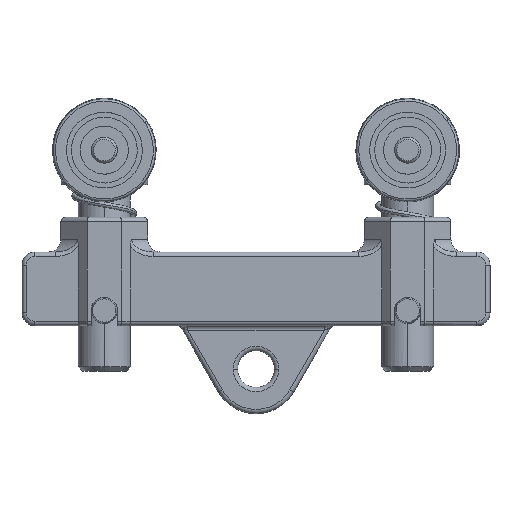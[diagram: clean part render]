
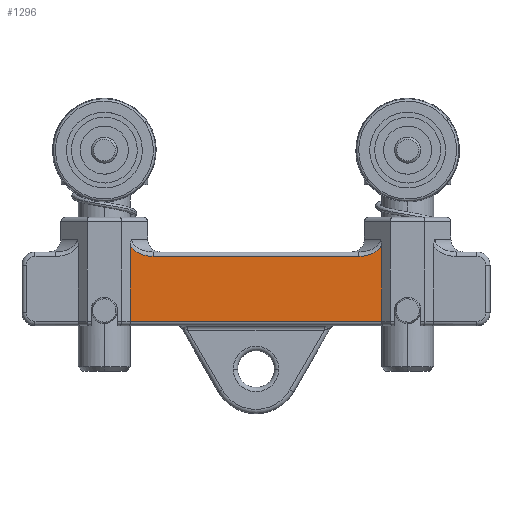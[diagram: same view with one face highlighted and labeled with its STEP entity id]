
A CAD part, top view. The second image highlights one B-rep face of the part: STEP entity #1296.
In plain terms, the highlighted planar face has unit normal (0, 0, 1).
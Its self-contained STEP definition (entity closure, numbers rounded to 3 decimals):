
#1239 = VERTEX_POINT ( 'NONE', #5664 ) ;
#1250 = EDGE_LOOP ( 'NONE', ( #1301, #1325, #1297, #1335, #1291, #1278 ) ) ;
#1275 = EDGE_CURVE ( 'NONE', #1282, #1293, #5746, .T. ) ;
#1278 = ORIENTED_EDGE ( 'NONE', *, *, #1275, .T. ) ;
#1282 = VERTEX_POINT ( 'NONE', #5726 ) ;
#1289 = EDGE_CURVE ( 'NONE', #1299, #1327, #5748, .T. ) ;
#1291 = ORIENTED_EDGE ( 'NONE', *, *, #1337, .T. ) ;
#1293 = VERTEX_POINT ( 'NONE', #5779 ) ;
#1294 = VERTEX_POINT ( 'NONE', #5782 ) ;
#1296 = ADVANCED_FACE ( 'NONE', ( #5781 ), #5777, .F. ) ;
#1297 = ORIENTED_EDGE ( 'NONE', *, *, #1326, .T. ) ;
#1299 = VERTEX_POINT ( 'NONE', #5778 ) ;
#1301 = ORIENTED_EDGE ( 'NONE', *, *, #1304, .T. ) ;
#1302 = EDGE_CURVE ( 'NONE', #1294, #1239, #5768, .T. ) ;
#1304 = EDGE_CURVE ( 'NONE', #1293, #1294, #5818, .T. ) ;
#1325 = ORIENTED_EDGE ( 'NONE', *, *, #1302, .T. ) ;
#1326 = EDGE_CURVE ( 'NONE', #1239, #1299, #5839, .T. ) ;
#1327 = VERTEX_POINT ( 'NONE', #5834 ) ;
#1335 = ORIENTED_EDGE ( 'NONE', *, *, #1289, .T. ) ;
#1337 = EDGE_CURVE ( 'NONE', #1327, #1282, #5827, .T. ) ;
#5030 = CARTESIAN_POINT ( 'NONE',  ( 25.893, 16.939, -2. ) ) ;
#5031 = CARTESIAN_POINT ( 'NONE',  ( 27.865, 16., -2. ) ) ;
#5034 = CARTESIAN_POINT ( 'NONE',  ( 30.243, 16., -2. ) ) ;
#5664 = CARTESIAN_POINT ( 'NONE',  ( 77.757, 16., -2. ) ) ;
#5726 = CARTESIAN_POINT ( 'NONE',  ( 25., 1., -2. ) ) ;
#5732 = CARTESIAN_POINT ( 'NONE',  ( 83., 1., -2. ) ) ;
#5744 = DIRECTION ( 'NONE',  ( 1., 0., 0. ) ) ;
#5745 = VECTOR ( 'NONE', #5744, 1000. ) ;
#5746 = LINE ( 'NONE', #5732, #5745 ) ;
#5748 =( BOUNDED_CURVE ( )  B_SPLINE_CURVE ( 3, ( #5034, #5031, #5030, #12536 ),
 .UNSPECIFIED., .F., .F. ) 
 B_SPLINE_CURVE_WITH_KNOTS ( ( 4, 4 ),
 ( 4.712, 5.898 ),
 .UNSPECIFIED. ) 
 CURVE ( )  GEOMETRIC_REPRESENTATION_ITEM ( )  RATIONAL_B_SPLINE_CURVE ( ( 1., 0.886, 0.886, 1. ) ) 
 REPRESENTATION_ITEM ( '' )  );
#5764 = CARTESIAN_POINT ( 'NONE',  ( 77.757, 16., -2. ) ) ;
#5765 = CARTESIAN_POINT ( 'NONE',  ( 80.135, 16., -2. ) ) ;
#5766 = CARTESIAN_POINT ( 'NONE',  ( 82.107, 16.939, -2. ) ) ;
#5767 = CARTESIAN_POINT ( 'NONE',  ( 83., 18.498, -2. ) ) ;
#5768 =( BOUNDED_CURVE ( )  B_SPLINE_CURVE ( 3, ( #5767, #5766, #5765, #5764 ),
 .UNSPECIFIED., .F., .T. ) 
 B_SPLINE_CURVE_WITH_KNOTS ( ( 4, 4 ),
 ( 3.527, 4.712 ),
 .UNSPECIFIED. ) 
 CURVE ( )  GEOMETRIC_REPRESENTATION_ITEM ( )  RATIONAL_B_SPLINE_CURVE ( ( 1., 0.886, 0.886, 1. ) ) 
 REPRESENTATION_ITEM ( '' )  );
#5771 = DIRECTION ( 'NONE',  ( -1., 0., 0. ) ) ;
#5772 = DIRECTION ( 'NONE',  ( 0., 0., -1. ) ) ;
#5773 = CARTESIAN_POINT ( 'NONE',  ( 29., 0., -2. ) ) ;
#5774 = AXIS2_PLACEMENT_3D ( 'NONE', #5773, #5772, #5771 ) ;
#5777 = PLANE ( 'NONE',  #5774 ) ;
#5778 = CARTESIAN_POINT ( 'NONE',  ( 30.243, 16., -2. ) ) ;
#5779 = CARTESIAN_POINT ( 'NONE',  ( 83., 1., -2. ) ) ;
#5781 = FACE_OUTER_BOUND ( 'NONE', #1250, .T. ) ;
#5782 = CARTESIAN_POINT ( 'NONE',  ( 83., 18.498, -2. ) ) ;
#5815 = DIRECTION ( 'NONE',  ( 0., 1., 0. ) ) ;
#5816 = VECTOR ( 'NONE', #5815, 1000. ) ;
#5817 = CARTESIAN_POINT ( 'NONE',  ( 83., 0., -2. ) ) ;
#5818 = LINE ( 'NONE', #5817, #5816 ) ;
#5823 = DIRECTION ( 'NONE',  ( 0., -1., 0. ) ) ;
#5824 = VECTOR ( 'NONE', #5823, 1000. ) ;
#5825 = CARTESIAN_POINT ( 'NONE',  ( 25., 0., -2. ) ) ;
#5827 = LINE ( 'NONE', #5825, #5824 ) ;
#5832 = DIRECTION ( 'NONE',  ( -1., 0., 0. ) ) ;
#5834 = CARTESIAN_POINT ( 'NONE',  ( 25., 18.498, -2. ) ) ;
#5837 = VECTOR ( 'NONE', #5832, 1000. ) ;
#5838 = CARTESIAN_POINT ( 'NONE',  ( 29.243, 16., -2. ) ) ;
#5839 = LINE ( 'NONE', #5838, #5837 ) ;
#12536 = CARTESIAN_POINT ( 'NONE',  ( 25., 18.498, -2. ) ) ;
